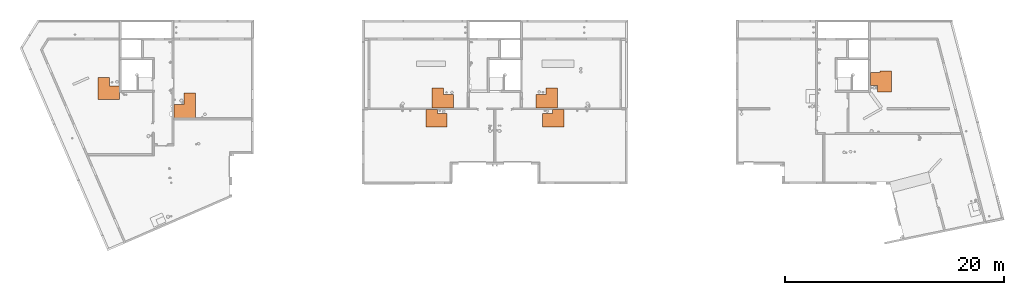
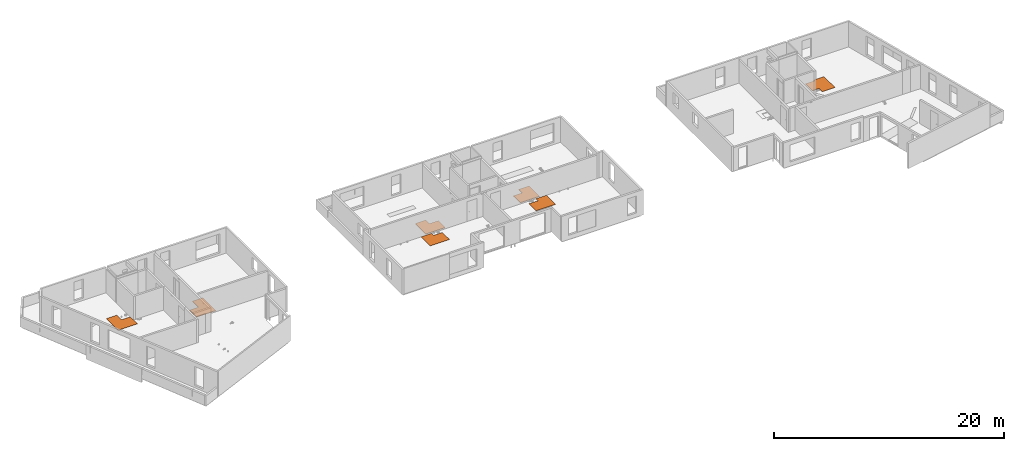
# One storey, part 19 of 28: 7 proxies.
"""IFC2X3 building model written with IfcOpenShell, lengths in centimetres."""

import ifcopenshell
import ifcopenshell.guid

model = None  # the IFC model being written
_history = None  # IfcOwnerHistory: only IFC2X3 demands one
_inside = {}  # id of a spatial element -> (the spatial element, [elements in it])
_under = {}  # id of a project, library or spatial element -> (it, [spatial elements below it])
_declared = {}  # id of a project -> (the project, [libraries it declares])
_typed = {}  # id of a type object -> (the type object, [elements of that type])
_made_of = {}  # id of a material, layer set ... -> (it, [elements and type objects made of it])


def new_model(schema):
    """Start an empty IFC model of exactly this schema.

    Asked for "IFC4X3", IfcOpenShell would pick the latest addendum, in which some entities
    have other attributes; the version numbers below select the first issue.
    IFC2X3 requires an IfcOwnerHistory on every rooted entity: one is made here for all.
    """
    global model, _history
    if schema == "IFC4X3":
        model = ifcopenshell.file(schema_version=(4, 3, 0, 0))
    else:
        model = ifcopenshell.file(schema=schema)
    _inside.clear()
    _under.clear()
    _declared.clear()
    _typed.clear()
    _made_of.clear()
    _history = None
    if model.schema == "IFC2X3":
        org = make("IfcOrganization", Name="unknown")
        user = make(
            "IfcPersonAndOrganization",
            ThePerson=make("IfcPerson", FamilyName="unknown"),
            TheOrganization=org,
        )
        app = make(
            "IfcApplication",
            ApplicationDeveloper=org,
            Version="unknown",
            ApplicationFullName="unknown",
            ApplicationIdentifier="unknown",
        )
        _history = make(
            "IfcOwnerHistory",
            OwningUser=user,
            OwningApplication=app,
            ChangeAction="ADDED",
            CreationDate=0,
        )
    return model


def make(cls, **values):
    """One entity of the class cls with the attributes given. An attribute that is None is left unset."""
    return model.create_entity(
        cls, **{name: value for name, value in values.items() if value is not None}
    )


def entity(cls, *values):
    """Any entity or typed value of the class cls, its attributes in the order of the schema. None: left unset."""
    e = model.create_entity(cls)
    for i, value in enumerate(values):
        if value is not None:
            e[i] = value
    return e


def rooted(cls, **values):
    """An entity with a GlobalId (a new one), such as an element, a storey or a relation."""
    return make(cls, GlobalId=ifcopenshell.guid.new(), OwnerHistory=_history, **values)


def si_unit(unit_type, name, prefix=None):
    """IfcSIUnit, for example si_unit("LENGTHUNIT", "METRE", prefix="MILLI")."""
    return make("IfcSIUnit", UnitType=unit_type, Prefix=prefix, Name=name)


def converted_unit(unit_type, name, factor, base, dimensions=None, offset=None):
    """IfcConversionBasedUnit, such as the inch: factor (a typed value) times the base unit."""
    return make(
        "IfcConversionBasedUnit"
        if offset is None
        else "IfcConversionBasedUnitWithOffset",
        ConversionOffset=offset,
        Dimensions=None
        if dimensions is None
        else entity("IfcDimensionalExponents", *dimensions),
        UnitType=unit_type,
        Name=name,
        ConversionFactor=make(
            "IfcMeasureWithUnit", ValueComponent=factor, UnitComponent=base
        ),
    )


def derived_unit(unit_type, elements):
    """IfcDerivedUnit: a product of units, each with its exponent."""
    return make(
        "IfcDerivedUnit",
        Elements=[
            make("IfcDerivedUnitElement", Unit=unit, Exponent=power)
            for unit, power in elements
        ],
        UnitType=unit_type,
    )


def assignment(units):
    """IfcUnitAssignment: the units of a project."""
    return None if units is None else make("IfcUnitAssignment", Units=units)


def point(xyz):
    """IfcCartesianPoint."""
    return None if xyz is None else make("IfcCartesianPoint", Coordinates=xyz)


def direction(xyz):
    """IfcDirection."""
    return None if xyz is None else make("IfcDirection", DirectionRatios=xyz)


def frame(location, z_axis=None, x_axis=None):
    """IfcAxis2Placement3D, a coordinate frame: its origin and axes. An axis left out is left unset."""
    return make(
        "IfcAxis2Placement3D",
        Location=point(location),
        Axis=direction(z_axis),
        RefDirection=direction(x_axis),
    )


def origin():
    """The frame at (0, 0, 0) with its axes left unset."""
    return frame((0.0, 0.0, 0.0))


def place(relative_to, where):
    """IfcLocalPlacement: puts the frame where relative to a parent placement (None: the world)."""
    return make(
        "IfcLocalPlacement", PlacementRelTo=relative_to, RelativePlacement=where
    )


def context(
    kind, dimensions, precision=None, world=None, true_north=None, identifier=None
):
    """IfcGeometricRepresentationContext, for example the 3D "Model" context."""
    return make(
        "IfcGeometricRepresentationContext",
        ContextIdentifier=identifier,
        ContextType=kind,
        CoordinateSpaceDimension=dimensions,
        Precision=precision,
        WorldCoordinateSystem=world,
        TrueNorth=true_north,
    )


def subcontext(parent, identifier, kind, view, scale=None):
    """IfcGeometricRepresentationSubContext, for example "Body" below "Model"."""
    return make(
        "IfcGeometricRepresentationSubContext",
        ContextIdentifier=identifier,
        ContextType=kind,
        ParentContext=parent,
        TargetScale=scale,
        TargetView=view,
    )


def project(units=None, contexts=None):
    """IfcProject with its units and contexts."""
    return rooted(
        "IfcProject",
        Name="project",
        RepresentationContexts=contexts,
        UnitsInContext=assignment(units),
    )


def spatial(cls, under=None, at=None, **own):
    """A site, building, storey or space (cls), placed at a placement, below another one or the project."""
    s = rooted(cls, ObjectPlacement=at, **own)
    if under is not None:
        _under.setdefault(under.id(), (under, []))[1].append(s)
    return s


def polyline(points):
    """IfcPolyline through the points."""
    return make("IfcPolyline", Points=[point(p) for p in points])


def outline(outer, holes=None, kind="AREA"):
    """IfcArbitraryClosedProfileDef: a profile drawn as a closed curve; with holes, ...WithVoids."""
    if holes is None:
        return make("IfcArbitraryClosedProfileDef", ProfileType=kind, OuterCurve=outer)
    return make(
        "IfcArbitraryProfileDefWithVoids",
        ProfileType=kind,
        OuterCurve=outer,
        InnerCurves=holes,
    )


def extrude(swept, where, along, depth):
    """IfcExtrudedAreaSolid: the profile swept, set in the frame where, extruded along a direction by depth."""
    return make(
        "IfcExtrudedAreaSolid",
        SweptArea=swept,
        Position=where,
        ExtrudedDirection=direction(along),
        Depth=depth,
    )


def shape(context_of_items, identifier, shape_type, items):
    """IfcShapeRepresentation: the items that make up one representation, for example the "Body"."""
    return make(
        "IfcShapeRepresentation",
        ContextOfItems=context_of_items,
        RepresentationIdentifier=identifier,
        RepresentationType=shape_type,
        Items=items,
    )


def source(mapping_origin, context_of_items, identifier, shape_type, items):
    """IfcRepresentationMap: a shape defined once, which mapped items show again and again."""
    return make(
        "IfcRepresentationMap",
        MappingOrigin=mapping_origin,
        MappedRepresentation=shape(context_of_items, identifier, shape_type, items),
    )


def transform(
    local_origin,
    x_axis=None,
    y_axis=None,
    z_axis=None,
    scale=None,
    scale2=None,
    scale3=None,
    uniform=True,
):
    """IfcCartesianTransformationOperator3D, or its non-uniform kind. x_axis, y_axis, z_axis: its Axis1, 2, 3."""
    if uniform:
        return make(
            "IfcCartesianTransformationOperator3D",
            Axis1=direction(x_axis),
            Axis2=direction(y_axis),
            LocalOrigin=point(local_origin),
            Scale=scale,
            Axis3=direction(z_axis),
        )
    return make(
        "IfcCartesianTransformationOperator3DnonUniform",
        Axis1=direction(x_axis),
        Axis2=direction(y_axis),
        LocalOrigin=point(local_origin),
        Scale=scale,
        Axis3=direction(z_axis),
        Scale2=scale2,
        Scale3=scale3,
    )


def mapped(mapping_source, mapping_target):
    """IfcMappedItem: shows the shape of a source again, moved by a transform."""
    return make(
        "IfcMappedItem", MappingSource=mapping_source, MappingTarget=mapping_target
    )


def material(Name=None, Category=None):
    """IfcMaterial."""
    return make("IfcMaterial", Name=Name, Category=Category)


def made_of(thing, what):
    """Note that an element or type object is made of a material, layer set ...; save() writes the relation."""
    if what is not None:
        _made_of.setdefault(what.id(), (what, []))[1].append(thing)
    return thing


def type_object(cls, material=None, **own):
    """A type object (cls), such as IfcWallType, which elements share."""
    return made_of(rooted(cls, **own), material)


def type_shapes(of_type, sources):
    """Give a type object the sources (RepresentationMaps) that its elements show as mapped items."""
    of_type.RepresentationMaps = sources


def element(
    cls,
    number,
    at=None,
    inside=None,
    cuts=None,
    type_object=None,
    material=None,
    context=None,
    identifier="Body",
    shape_type=None,
    held_by="IfcProductDefinitionShape",
    body=None,
    shapes=None,
    **own,
):
    """One element of the class cls, such as IfcWall. Its Tag is "e" and its number.

    at: its placement. inside: the storey or other place that contains it. cuts: it is an
    opening in that element (IfcRelVoidsElement). A single representation is given by context,
    identifier, shape_type and body (its items); several are given by shapes. held_by: the class
    of the entity that holds the representations. save() writes the other relations.
    """
    e = rooted(cls, Tag="e%d" % number, ObjectPlacement=at, **own)
    if body is not None:
        shapes = [shape(context, identifier, shape_type, body)]
    if shapes is not None:
        e.Representation = make(held_by, Representations=shapes)
    if inside is not None:
        _inside.setdefault(inside.id(), (inside, []))[1].append(e)
    if cuts is not None:
        rooted(
            "IfcRelVoidsElement", RelatingBuildingElement=cuts, RelatedOpeningElement=e
        )
    if type_object is not None:
        _typed.setdefault(type_object.id(), (type_object, []))[1].append(e)
    return made_of(e, material)


def aggregate(whole, parts):
    """IfcRelAggregates: a whole, such as a stair, and the parts it consists of."""
    return rooted("IfcRelAggregates", RelatingObject=whole, RelatedObjects=parts)


def save(model, path):
    """Write the relations noted so far, then the file.

    IfcRelAggregates (storeys below a building ...), IfcRelContainedInSpatialStructure (elements
    in a storey), IfcRelDefinesByType, IfcRelAssociatesMaterial and IfcRelDeclares: one each for
    every whole, place, type object, material and project.
    """
    for whole, parts in _under.values():
        aggregate(whole, parts)
    for where, things in _inside.values():
        rooted(
            "IfcRelContainedInSpatialStructure",
            RelatedElements=things,
            RelatingStructure=where,
        )
    for kind, things in _typed.values():
        rooted("IfcRelDefinesByType", RelatedObjects=things, RelatingType=kind)
    for what, things in _made_of.values():
        rooted("IfcRelAssociatesMaterial", RelatedObjects=things, RelatingMaterial=what)
    for by, libraries in _declared.values():
        rooted("IfcRelDeclares", RelatingContext=by, RelatedDefinitions=libraries)
    model.write(path)


model = new_model("IFC2X3")

# Units and contexts
model_context = context("Model", 3, precision=0.001, world=origin(), true_north=direction((6.12303176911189e-17, 1.0)))
body_context = subcontext(model_context, "Body", "Model", "MODEL_VIEW")
ifc_project = project(units=[si_unit("LENGTHUNIT", "METRE", prefix="CENTI"), si_unit("AREAUNIT", "SQUARE_METRE"), si_unit("VOLUMEUNIT", "CUBIC_METRE"), converted_unit("PLANEANGLEUNIT", "DEGREE", entity("IfcRatioMeasure", 0.0174532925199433), si_unit("PLANEANGLEUNIT", "RADIAN"), dimensions=[0, 0, 0, 0, 0, 0, 0]), si_unit("MASSUNIT", "GRAM", prefix="KILO"), derived_unit("MASSDENSITYUNIT", [(si_unit("MASSUNIT", "GRAM", prefix="KILO"), 1), (si_unit("LENGTHUNIT", "METRE"), -3)]), si_unit("TIMEUNIT", "SECOND"), si_unit("FREQUENCYUNIT", "HERTZ"), si_unit("THERMODYNAMICTEMPERATUREUNIT", "DEGREE_CELSIUS"), derived_unit("THERMALTRANSMITTANCEUNIT", [(si_unit("MASSUNIT", "GRAM", prefix="KILO"), 1), (si_unit("THERMODYNAMICTEMPERATUREUNIT", "KELVIN"), -1), (si_unit("TIMEUNIT", "SECOND"), -3)]), derived_unit("VOLUMETRICFLOWRATEUNIT", [(si_unit("LENGTHUNIT", "METRE"), 3), (si_unit("TIMEUNIT", "SECOND"), -1)]), si_unit("ELECTRICCURRENTUNIT", "AMPERE"), si_unit("ELECTRICVOLTAGEUNIT", "VOLT"), si_unit("POWERUNIT", "WATT"), si_unit("FORCEUNIT", "NEWTON"), si_unit("ILLUMINANCEUNIT", "LUX"), si_unit("LUMINOUSFLUXUNIT", "LUMEN"), si_unit("LUMINOUSINTENSITYUNIT", "CANDELA"), derived_unit("USERDEFINED", [(si_unit("MASSUNIT", "GRAM", prefix="KILO"), -1), (si_unit("LENGTHUNIT", "METRE"), -2), (si_unit("TIMEUNIT", "SECOND"), 3), (si_unit("LUMINOUSFLUXUNIT", "LUMEN"), 1)]), derived_unit("LINEARVELOCITYUNIT", [(si_unit("LENGTHUNIT", "METRE"), 1), (si_unit("TIMEUNIT", "SECOND"), -1)]), si_unit("PRESSUREUNIT", "PASCAL"), derived_unit("USERDEFINED", [(si_unit("LENGTHUNIT", "METRE"), -2), (si_unit("MASSUNIT", "GRAM", prefix="KILO"), 1), (si_unit("TIMEUNIT", "SECOND"), -2)])], contexts=[model_context])

# Site, building, storey
site_placement = place(None, origin())
site = spatial("IfcSite", under=ifc_project, at=site_placement, Name="Default", CompositionType="ELEMENT")
building_placement = place(site_placement, origin())
building = spatial("IfcBuilding", under=site, at=building_placement, Name="CAGE 03", CompositionType="ELEMENT")
storey_placement = place(building_placement, frame((0.0, 0.0, 1420.0)))
storey = spatial("IfcBuildingStorey", under=building, at=storey_placement, Name="R+5", CompositionType="ELEMENT", Elevation=1420.0)

# Proxies
ifc_material = material(Name="BBGO_Résa")
building_element_proxy_type_1 = type_object("IfcBuildingElementProxyType", Name="Décaissé", PredefinedType="NOTDEFINED", material=ifc_material)
shared_shape_1 = source(origin(), body_context, "Body", "SweptSolid", [
    extrude(outline(polyline([(-5.0, -94.0), (100.0, -94.0), (100.0, 108.0), (-95.0, 108.0), (-95.0, -14.0), (-5.0, -14.0), (-5.0, -94.0)])), frame((3559.36582014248, 4675.16066607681, 1414.0), z_axis=(0.0, 0.0, 1.0), x_axis=(-1.0, 0.0, 0.0)), (0.0, 0.0, 1.0), 5.99999999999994),
])
type_shapes(building_element_proxy_type_1, [shared_shape_1])
proxy_1_placement = place(storey_placement, frame((0.0, 0.0, -1420.0)))
element("IfcBuildingElementProxy", 1, at=proxy_1_placement, inside=storey, type_object=building_element_proxy_type_1, material=ifc_material, Name="Décaissé51:Décaissé", ObjectType="Décaissé", context=body_context, shape_type="MappedRepresentation", body=[
    mapped(shared_shape_1, transform((0.0, 0.0, 0.0), scale=1.0)),
])
building_element_proxy_type_2 = type_object("IfcBuildingElementProxyType", Name="Décaissé", PredefinedType="NOTDEFINED", material=ifc_material)
shared_shape_2 = source(origin(), body_context, "Body", "SweptSolid", [
    extrude(outline(polyline([(5.0, -5.0), (95.0, -5.0), (95.0, 115.0), (-100.0, 115.0), (-100.0, -110.0), (5.0, -110.0), (5.0, -5.0)])), frame((4247.36582014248, 4515.16066607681, 1414.0), z_axis=(0.0, 0.0, 1.0), x_axis=(-1.0, 0.0, 0.0)), (0.0, 0.0, 1.0), 5.99999999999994),
])
type_shapes(building_element_proxy_type_2, [shared_shape_2])
proxy_2_placement = place(storey_placement, frame((0.0, 0.0, -1420.0)))
element("IfcBuildingElementProxy", 2, at=proxy_2_placement, inside=storey, type_object=building_element_proxy_type_2, material=ifc_material, Name="Décaissé53:Décaissé", ObjectType="Décaissé", context=body_context, shape_type="MappedRepresentation", body=[
    mapped(shared_shape_2, transform((0.0, 0.0, 0.0), scale=1.0)),
])
building_element_proxy_type_3 = type_object("IfcBuildingElementProxyType", Name="Décaissé", PredefinedType="NOTDEFINED", material=ifc_material)
shared_shape_3 = source(origin(), body_context, "Body", "SweptSolid", [
    extrude(outline(polyline([(-95.0, 19.3333333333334), (-95.0, -100.666666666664), (100.0, -100.666666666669), (100.0, 81.333333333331), (-5.0, 81.3333333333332), (-5.0, 19.3333333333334), (-95.0, 19.3333333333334)])), frame((6609.36582014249, 4593.32733274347, 1414.0), z_axis=(0.0, 0.0, -1.0), x_axis=(-1.0, 0.0, 0.0)), (0.0, 0.0, -1.0), 5.99999999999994),
])
type_shapes(building_element_proxy_type_3, [shared_shape_3])
proxy_3_placement = place(storey_placement, frame((0.0, 0.0, -1420.0)))
element("IfcBuildingElementProxy", 3, at=proxy_3_placement, inside=storey, type_object=building_element_proxy_type_3, material=ifc_material, Name="Décaissé54:Décaissé", ObjectType="Décaissé", context=body_context, shape_type="MappedRepresentation", body=[
    mapped(shared_shape_3, transform((0.0, 0.0, 0.0), scale=1.0)),
])
building_element_proxy_type_4 = type_object("IfcBuildingElementProxyType", Name="Décaissé", PredefinedType="NOTDEFINED", material=ifc_material)
shared_shape_4 = source(origin(), body_context, "Body", "SweptSolid", [
    extrude(outline(polyline([(-5.0, -64.0), (100.0, -64.0), (100.0, 93.0), (-95.0, 93.0), (-95.0, -29.0), (-5.0, -29.0), (-5.0, -64.0)])), frame((6550.86582014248, 4410.6606660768, 1414.0), z_axis=(0.0, 0.0, 1.0), x_axis=(-1.0, 0.0, 0.0)), (0.0, 0.0, 1.0), 5.99999999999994),
])
type_shapes(building_element_proxy_type_4, [shared_shape_4])
proxy_4_placement = place(storey_placement, frame((0.0, 0.0, -1420.0)))
element("IfcBuildingElementProxy", 4, at=proxy_4_placement, inside=storey, type_object=building_element_proxy_type_4, material=ifc_material, Name="Décaissé55:Décaissé", ObjectType="Décaissé", context=body_context, shape_type="MappedRepresentation", body=[
    mapped(shared_shape_4, transform((0.0, 0.0, 0.0), scale=1.0)),
])
building_element_proxy_type_5 = type_object("IfcBuildingElementProxyType", Name="Décaissé", PredefinedType="NOTDEFINED", material=ifc_material)
shared_shape_5 = source(origin(), body_context, "Body", "SweptSolid", [
    extrude(outline(polyline([(-64.0, 5.0), (-64.0, -100.0), (93.0, -100.0), (93.0, 95.0), (-29.0, 95.0), (-29.0, 5.0), (-64.0, 5.0)])), frame((7611.86582014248, 4410.6606660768, 1414.0), z_axis=(0.0, 0.0, -1.0), x_axis=(0.0, -1.0, 0.0)), (0.0, 0.0, -1.0), 5.99999999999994),
])
type_shapes(building_element_proxy_type_5, [shared_shape_5])
proxy_5_placement = place(storey_placement, frame((0.0, 0.0, -1420.0)))
element("IfcBuildingElementProxy", 5, at=proxy_5_placement, inside=storey, type_object=building_element_proxy_type_5, material=ifc_material, Name="Décaissé56:Décaissé", ObjectType="Décaissé", context=body_context, shape_type="MappedRepresentation", body=[
    mapped(shared_shape_5, transform((0.0, 0.0, 0.0), scale=1.0)),
])
building_element_proxy_type_6 = type_object("IfcBuildingElementProxyType", Name="Décaissé", PredefinedType="NOTDEFINED", material=ifc_material)
shared_shape_6 = source(origin(), body_context, "Body", "SweptSolid", [
    extrude(outline(polyline([(-83.7499999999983, -2.0), (-83.7500000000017, -107.0), (105.249999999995, -107.0), (105.249999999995, 21.0), (49.2500000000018, 21.0), (49.2500000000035, 88.0), (-70.749999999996, 88.0), (-70.7499999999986, -2.0), (-83.7499999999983, -2.0)])), frame((10596.3658201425, 4742.91066607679, 1414.0), z_axis=(0.0, 0.0, -1.0), x_axis=(0.0, -1.0, 0.0)), (0.0, 0.0, -1.0), 5.99999999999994),
])
type_shapes(building_element_proxy_type_6, [shared_shape_6])
proxy_6_placement = place(storey_placement, frame((0.0, 0.0, -1420.0)))
element("IfcBuildingElementProxy", 6, at=proxy_6_placement, inside=storey, type_object=building_element_proxy_type_6, material=ifc_material, Name="Décaissé59:Décaissé", ObjectType="Décaissé", context=body_context, shape_type="MappedRepresentation", body=[
    mapped(shared_shape_6, transform((0.0, 0.0, 0.0), scale=1.0)),
])
building_element_proxy_type_7 = type_object("IfcBuildingElementProxyType", Name="Décaissé", PredefinedType="NOTDEFINED", material=ifc_material)
shared_shape_7 = source(origin(), body_context, "Body", "SweptSolid", [
    extrude(outline(polyline([(-19.3333333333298, -95.0), (100.666666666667, -95.0), (100.666666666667, 100.0), (-81.3333333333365, 100.0), (-81.3333333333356, -5.0), (-19.3333333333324, -5.0), (-19.3333333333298, -95.0)])), frame((7553.36582014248, 4593.32733274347, 1414.0), z_axis=(0.0, 0.0, 1.0), x_axis=(0.0, -1.0, 0.0)), (0.0, 0.0, 1.0), 5.99999999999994),
])
type_shapes(building_element_proxy_type_7, [shared_shape_7])
proxy_7_placement = place(storey_placement, frame((0.0, 0.0, -1420.0)))
element("IfcBuildingElementProxy", 7, at=proxy_7_placement, inside=storey, type_object=building_element_proxy_type_7, material=ifc_material, Name="Décaissé61:Décaissé", ObjectType="Décaissé", context=body_context, shape_type="MappedRepresentation", body=[
    mapped(shared_shape_7, transform((0.0, 0.0, 0.0), scale=1.0)),
])

save(model, "model.ifc")
